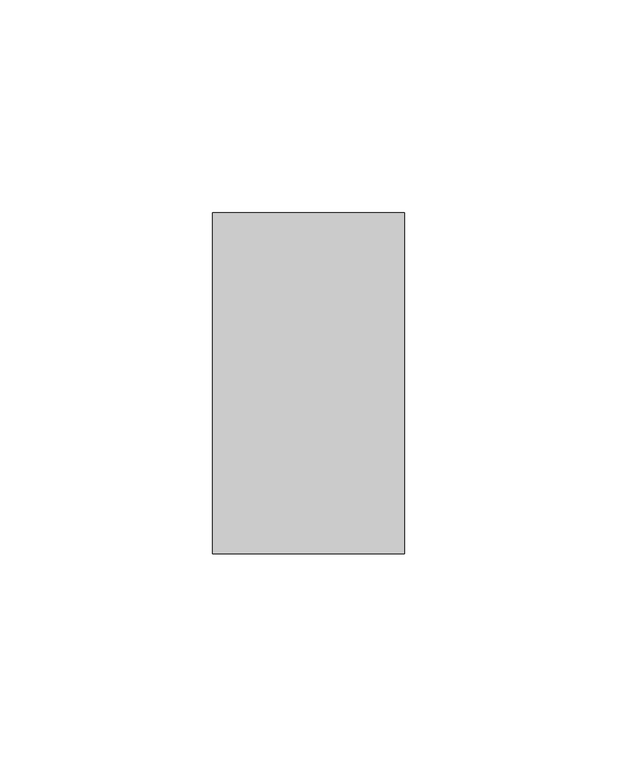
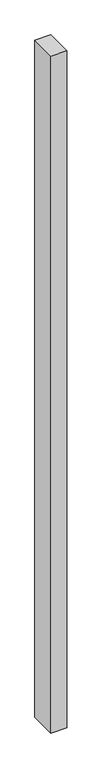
"""IFC4 building model written with IfcOpenShell, lengths in millimetres: member geometry, Obdélníková příčel : VERTI ELEMENT - vertikální."""

from ifc_helpers import new_model, si_unit, frame, origin, place, context, project, spatial, polyline, outline, extrude, source, transform, mapped, element, save


def member_01304ddf(model_context):
    return source(origin(), model_context, "Body", "SweptSolid", [
        extrude(outline(polyline([(0.0, 40.0), (0.0, -40.0), (-45.0, -40.0), (-45.0, 40.0), (0.0, 40.0)])), frame((0.0, 0.0, -2055.0), z_axis=(0.0, 0.0, 1.0), x_axis=(1.0, 0.0, 0.0)), (0.0, 0.0, 1.0), 2055.0),
    ])


if __name__ == "__main__":
    model = new_model("IFC4")
    model_context = context("Model", 3, world=origin())
    ifc_project = project(units=[si_unit("LENGTHUNIT", "METRE", prefix="MILLI")], contexts=[model_context])
    site = spatial("IfcSite", under=ifc_project)
    building = spatial("IfcBuilding", under=site)
    placement = place(None, origin())
    member_shape = member_01304ddf(model_context)
    element("IfcMember", 1, ObjectType="Obdélníková příčel : VERTI ELEMENT - vertikální", at=placement, inside=building, context=model_context, shape_type="MappedRepresentation", body=[
        mapped(member_shape, transform((0.0, 0.0, 0.0), x_axis=(1.0, 0.0, 0.0), y_axis=(0.0, 1.0, 0.0), z_axis=(0.0, 0.0, 1.0))),
    ])
    save(model, "model.ifc")
